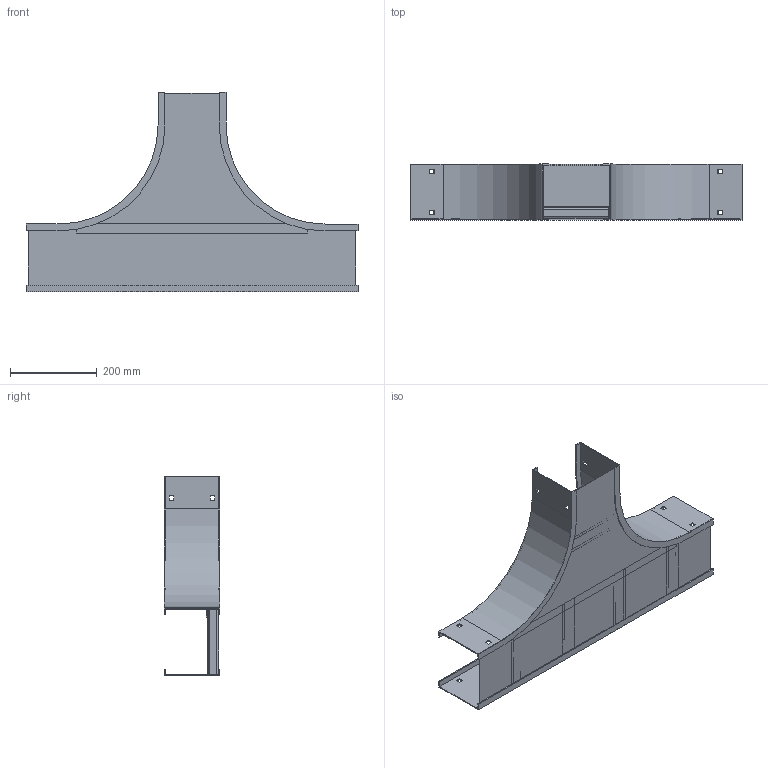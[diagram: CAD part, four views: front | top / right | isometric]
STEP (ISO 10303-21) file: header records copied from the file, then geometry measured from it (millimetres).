
FILE_DESCRIPTION((''),'2;1');
FILE_NAME('AUF506SHT12_ASM','2010-01-27T',('erouzier'),(''),'PRO/ENGINEER BY PARAMETRIC TECHNOLOGY CORPORATION, 2008510','PRO/ENGINEER BY PARAMETRIC TECHNOLOGY CORPORATION, 2008510','');
FILE_SCHEMA(('CONFIG_CONTROL_DESIGN'));
Length unit declared in the file: inch
Products named in the file (10): CDS001320-5-90-9-I; CDS013842-5-30; CDS000495_GEN_AF7; CDS002159L6_AF9; CDS002159L6_AF10; CDS002159L6_AF11; CDS002159L6_AF12; CDS002159L6_AF8; CDS003791-6-12-6; AUF506SHT12_ASM
Assembly tree (10 placements, depth 2):
  AUF506SHT12_ASM
    CDS001320-5-90-9-I  x2
    CDS013842-5-30
    CDS000495_GEN_AF7
    CDS002159L6_AF9
    CDS002159L6_AF10
    CDS002159L6_AF11
    CDS002159L6_AF12
    CDS002159L6_AF8
    CDS003791-6-12-6
Bounding box: 767.08 x 129.03 x 462.03 mm (x, y, z)
Volume: 1030592.8 mm3; surface area: 1189735.3 mm2
Topology: 10 solids, 10 shells, 266 faces, 738 edges, 492 vertices
Faces by surface type: plane 201, cylinder 65
Entity records: 7659 total; most frequent: CARTESIAN_POINT 1322, ORIENTED_EDGE 1284, DIRECTION 1268, EDGE_CURVE 642, VECTOR 520, LINE 520, VERTEX_POINT 428, AXIS2_PLACEMENT_3D 374
